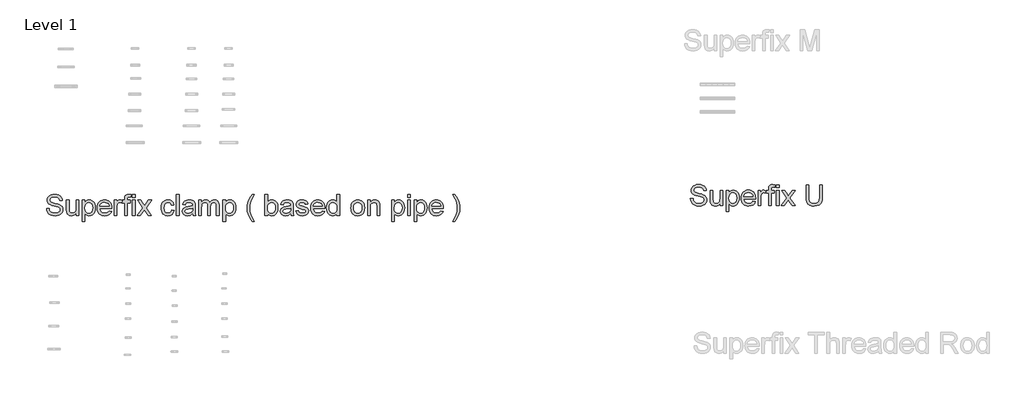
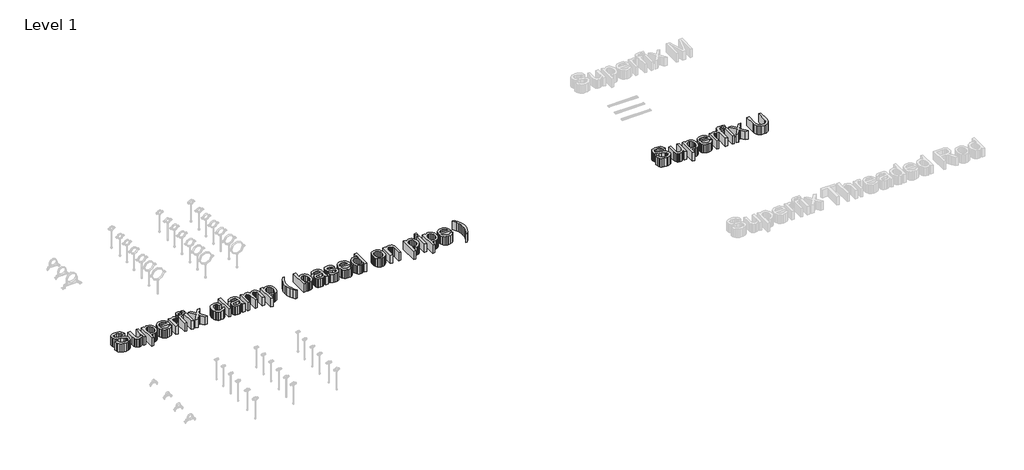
# One storey, part 25 of 32: 2 proxies.
"""IFC4 building model written with IfcOpenShell, lengths in millimetres."""

from ifc_helpers import new_model, si_unit, origin, origin_with_axes, place, context, project, spatial, polyline, outline, extrude, element, save

model = new_model("IFC4")

# Units and contexts
model_context = context("Model", 3, world=origin())
ifc_project = project(units=[si_unit("LENGTHUNIT", "METRE", prefix="MILLI")], contexts=[model_context])

# Site, building, storey
site = spatial("IfcSite", under=ifc_project)
building = spatial("IfcBuilding", under=site)
storey = spatial("IfcBuildingStorey", under=building, Name="Level 1", Elevation=0.0)

# Proxies
placement = place(None, origin())
element("IfcBuildingElementProxy", 1, Name="300mm Arial 2", ObjectType="300mm Arial 2", at=placement, inside=storey, context=model_context, shape_type="SweptSolid", body=[
    extrude(outline(polyline([(-49767.313903, 24946.1412722), (-49729.6427866, 24946.1412722), (-49725.3201732, 24925.2363779), (-49717.5026808, 24908.4333677), (-49705.3073927, 24895.0976454), (-49687.851392, 24884.5946144), (-49666.5142363, 24877.7796005), (-49642.675483, 24875.5079292), (-49621.6878152, 24877.2277775), (-49603.3121095, 24882.3873225), (-49588.4220857, 24890.5543028), (-49577.8914636, 24901.296457), (-49571.6282727, 24913.6297009), (-49569.5405423, 24926.5699501), (-49571.1040408, 24939.1791055), (-49575.7945363, 24950.0776096), (-49585.3226799, 24959.375827), (-49601.3991231, 24967.1841224), (-49656.2503286, 24981.5683084), (-49692.2567789, 24991.087255), (-49715.2953888, 25000.1463491), (-49734.0481735, 25012.8198839), (-49747.3379106, 25028.1789572), (-49755.2565706, 25045.8924752), (-49757.8961239, 25065.6293443), (-49754.6311712, 25087.6930669), (-49744.836313, 25108.2668675), (-49728.7690669, 25125.7044741), (-49706.6869501, 25138.3596147), (-49680.1810524, 25146.0575455), (-49650.8424633, 25148.6235224), (-49619.0574589, 25145.9379838), (-49591.2455801, 25137.8813681), (-49568.4001082, 25124.6192222), (-49551.5143246, 25106.3170929), (-49540.8273526, 25084.1154145), (-49536.5783156, 25059.1546211), (-49574.2494319, 25059.1546211), (-49581.1656134, 25081.6322111), (-49595.5865876, 25097.855807), (-49618.1193598, 25107.6782563), (-49649.3709353, 25110.9524061), (-49681.3582748, 25107.7150445), (-49703.3024358, 25098.0029598), (-49715.9943646, 25083.7107443), (-49720.2250076, 25066.7329902), (-49717.2267693, 25052.2568337), (-49708.2320545, 25040.6133686), (-49686.9684752, 25030.2023081), (-49646.7221849, 25019.5705185), (-49605.1883077, 25009.4721577), (-49580.0619674, 25000.6613839), (-49558.5868559, 24986.9945678), (-49543.6048617, 24970.1271783), (-49534.803285, 24950.2431565), (-49531.869426, 24927.5264433), (-49535.2447433, 24904.3038923), (-49545.3706953, 24882.4608989), (-49561.8334145, 24863.6621289), (-49584.219034, 24849.5722485), (-49611.138799, 24840.7706718), (-49641.203955, 24837.8368128), (-49678.1117162, 24841.000598), (-49708.4895719, 24850.4919535), (-49732.6870102, 24866.3476675), (-49751.0535188, 24888.6045282), (-49762.8441367, 24915.7174312), (-49767.313903, 24946.1412722)])), origin_with_axes(), (0.0, 0.0, 1.0), 150.0),
    extrude(outline(polyline([(-49338.804955, 24842.5457024), (-49338.804955, 24880.5847007), (-49352.4349829, 24861.8824998), (-49368.309091, 24848.5237848), (-49386.4272792, 24840.5085558), (-49406.7895477, 24837.8368128), (-49425.1376622, 24839.713011), (-49442.2165838, 24845.3416056), (-49456.5455875, 24853.8028914), (-49466.6439483, 24864.1771637), (-49477.8643491, 24891.9154661), (-49480.0716411, 24926.9378321), (-49480.0716411, 25063.8635107), (-49442.4005248, 25063.8635107), (-49442.4005248, 24944.6697442), (-49440.1196564, 24906.262864), (-49434.6290177, 24893.4513735), (-49425.2204356, 24883.7116976), (-49412.5193098, 24877.5588713), (-49397.1510394, 24875.5079292), (-49380.8998523, 24877.6048565), (-49365.6971288, 24883.8956386), (-49353.1615498, 24893.8008614), (-49344.9117961, 24906.7411105), (-49340.3316653, 24924.4638257), (-49338.804955, 24948.7164462), (-49338.804955, 25063.8635107), (-49301.1338387, 25063.8635107), (-49301.1338387, 24842.5457024), (-49338.804955, 24842.5457024)])), origin_with_axes(), (0.0, 0.0, 1.0), 150.0),
    extrude(outline(polyline([(-49249.3360537, 24757.7856907), (-49249.3360537, 25063.8635107), (-49211.6649374, 25063.8635107), (-49211.6649374, 25026.9281584), (-49199.3776788, 25045.1475142), (-49185.6188922, 25058.1613398), (-49169.5792372, 25065.9696351), (-49150.4493734, 25068.5724002), (-49124.9735453, 25064.9303685), (-49102.6982905, 25054.0042732), (-49084.5617081, 25036.456302), (-49071.5018973, 25012.9486426), (-49063.6108285, 24985.191946), (-49060.9804722, 24954.8968637), (-49063.9511193, 24922.679598), (-49072.8630607, 24893.8652407), (-49087.4311877, 24869.9161228), (-49107.3703918, 24852.2945753), (-49130.5929428, 24841.4512535), (-49155.0111102, 24837.8368128), (-49172.3291551, 24840.255637), (-49187.789396, 24847.5121093), (-49201.0239507, 24858.4657957), (-49211.6649374, 24871.976262), (-49211.6649374, 24757.7856907), (-49249.3360537, 24757.7856907)]), holes=[polyline([(-49211.6649374, 24951.438773), (-49207.5906443, 24917.6672058), (-49195.3677651, 24894.0491817), (-49177.3323502, 24880.1432423), (-49155.8204506, 24875.5079292), (-49133.959063, 24880.3087892), (-49115.4637957, 24894.7113693), (-49102.8546403, 24919.1939161), (-49098.6515885, 24954.2346761), (-49102.7534728, 24987.8223023), (-49115.0591255, 25011.7714202), (-49133.0669492, 25026.118818), (-49154.2753462, 25030.9012839), (-49175.5665167, 25025.8153153), (-49194.2641191, 25010.5574096), (-49207.3147328, 24985.6058133), (-49211.6649374, 24951.438773)])]), origin_with_axes(), (0.0, 0.0, 1.0), 150.0),
    extrude(outline(polyline([(-48863.64857, 24908.4701559), (-48826.7132177, 24903.7612664), (-48840.0213489, 24875.9309934), (-48861.257337, 24855.1272666), (-48889.9429356, 24842.1594263), (-48925.599898, 24837.8368128), (-48948.9742003, 24839.7015147), (-48969.8009197, 24845.2956203), (-48988.0800563, 24854.6191296), (-49003.8116102, 24867.6720427), (-49016.4621523, 24884.091076), (-49025.4982538, 24903.512946), (-49030.9199147, 24925.9376529), (-49032.727135, 24951.3651966), (-49030.9015206, 24977.6549636), (-49025.4246774, 25000.8269308), (-49016.2966054, 25020.8810981), (-49003.5173046, 25037.8174654), (-48987.8271375, 25051.2727494), (-48969.9664666, 25060.8836665), (-48949.935292, 25066.6502168), (-48927.7336136, 25068.5724002), (-48906.2470058, 25066.6548153), (-48886.8159386, 25060.9020606), (-48869.4404122, 25051.3141361), (-48854.1204263, 25037.8910418), (-48841.6147378, 25020.9914627), (-48832.6821031, 25000.9740836), (-48827.3225222, 24977.8389046), (-48825.5359953, 24951.5859258), (-48825.7567245, 24941.4323827), (-48995.0560187, 24941.4323827), (-48988.5353103, 24913.2342278), (-48973.3877692, 24892.5040773), (-48951.5263816, 24879.7569662), (-48924.864134, 24875.5079292), (-48904.8145653, 24877.4760978), (-48887.9287817, 24883.3806039), (-48874.2067833, 24893.5893292), (-48863.64857, 24908.4701559)]), holes=[polyline([(-48995.0560187, 24979.103499), (-48863.2071116, 24979.103499), (-48868.3022772, 24999.0059149), (-48878.2902734, 25013.2429481), (-48900.2528285, 25026.4867), (-48927.8807664, 25030.9012839), (-48953.2738211, 25027.3788138), (-48974.270686, 25016.8114035), (-48988.8664041, 25000.3394872), (-48995.0560187, 24979.103499)])]), origin_with_axes(), (0.0, 0.0, 1.0), 150.0),
    extrude(outline(polyline([(-48787.864879, 24842.5457024), (-48787.864879, 25063.8635107), (-48754.9026522, 25063.8635107), (-48754.9026522, 25031.1220131), (-48742.7257582, 25050.1047241), (-48731.5053573, 25061.2883367), (-48720.2481683, 25066.7513843), (-48707.9609096, 25068.5724002), (-48689.1989279, 25065.6661325), (-48670.1426405, 25056.9473292), (-48682.7242048, 25023.175762), (-48695.9679566, 25028.9699034), (-48709.2117084, 25030.9012839), (-48720.4597004, 25029.0434798), (-48730.5120759, 25023.4700676), (-48738.633071, 25014.6041115), (-48744.0869216, 25002.8686759), (-48748.6670524, 24981.8258258), (-48750.1937627, 24958.8699893), (-48750.1937627, 24842.5457024), (-48787.864879, 24842.5457024)])), origin_with_axes(), (0.0, 0.0, 1.0), 150.0),
    extrude(outline(polyline([(-48637.1804138, 24842.5457024), (-48637.1804138, 25026.1923944), (-48670.1426405, 25026.1923944), (-48670.1426405, 25063.8635107), (-48637.1804138, 25063.8635107), (-48637.1804138, 25086.1571596), (-48633.2072882, 25117.574282), (-48625.6289191, 25130.1006639), (-48613.9302717, 25140.0150837), (-48597.5595229, 25146.4714127), (-48575.9648498, 25148.6235224), (-48541.6046714, 25144.503244), (-48547.1229014, 25109.1865725), (-48568.8279391, 25110.9524061), (-48583.1477457, 25109.3889076), (-48592.5563278, 25104.6984122), (-48597.771055, 25095.7404856), (-48599.5092975, 25081.3746937), (-48599.5092975, 25063.8635107), (-48557.1292916, 25063.8635107), (-48557.1292916, 25026.1923944), (-48599.5092975, 25026.1923944), (-48599.5092975, 24842.5457024), (-48637.1804138, 24842.5457024)])), origin_with_axes(), (0.0, 0.0, 1.0), 150.0),
    extrude(outline(polyline([(-48524.1670649, 24842.5457024), (-48524.1670649, 25063.8635107), (-48486.4959485, 25063.8635107), (-48486.4959485, 24842.5457024), (-48524.1670649, 24842.5457024)])), origin_with_axes(), (0.0, 0.0, 1.0), 150.0),
    extrude(outline(polyline([(-48524.1670649, 25106.2435165), (-48524.1670649, 25143.9146328), (-48486.4959485, 25143.9146328), (-48486.4959485, 25106.2435165), (-48524.1670649, 25106.2435165)])), origin_with_axes(), (0.0, 0.0, 1.0), 150.0),
    extrude(outline(polyline([(-48453.5337218, 24842.5457024), (-48373.0411412, 24953.7932177), (-48448.8248322, 25063.8635107), (-48403.5017704, 25063.8635107), (-48366.9343001, 25010.8885034), (-48349.8645755, 24985.8725277), (-48335.0757193, 25006.3267666), (-48293.4314775, 25063.8635107), (-48248.1084157, 25063.8635107), (-48327.7180794, 24953.7932177), (-48251.0514716, 24842.5457024), (-48296.3745334, 24842.5457024), (-48342.5069356, 24909.4266491), (-48350.9682215, 24921.6403314), (-48408.21066, 24842.5457024), (-48453.5337218, 24842.5457024)])), origin_with_axes(), (0.0, 0.0, 1.0), 150.0),
    extrude(outline(polyline([(-47959.1003203, 24922.5968245), (-47921.429204, 24917.887935), (-47931.9322349, 24884.3830823), (-47951.669104, 24859.063604), (-47978.782007, 24843.1435106), (-48011.41314, 24837.8368128), (-48032.5410628, 24839.6877191), (-48051.4846863, 24845.240438), (-48068.2440104, 24854.4949694), (-48082.8190352, 24867.4513135), (-48094.616551, 24883.8657482), (-48103.0433479, 24903.4945519), (-48108.0994261, 24926.3377246), (-48109.7847855, 24952.3952661), (-48106.9061089, 24985.918513), (-48098.270079, 25014.9719935), (-48083.7387402, 25038.4336678), (-48063.1741367, 25055.1814956), (-48038.5720283, 25065.2246741), (-48011.9281748, 25068.5724002), (-47980.0971851, 25063.9738753), (-47954.6489481, 25050.1783005), (-47936.3928041, 25027.9214398), (-47926.1380935, 24997.9390572), (-47963.8092098, 24993.2301676), (-47970.6426179, 25009.6652957), (-47981.2836046, 25021.4467166), (-47995.1435587, 25028.5376421), (-48011.6338692, 25030.9012839), (-48035.9784602, 25026.2475767), (-48055.301462, 25012.286455), (-48067.9106174, 24988.2637607), (-48072.1136692, 24953.4253357), (-48068.0025879, 24918.1178612), (-48055.669344, 24894.0123935), (-48036.6958301, 24880.1340452), (-48012.6639388, 24875.5079292), (-47993.156996, 24878.3958028), (-47977.1633262, 24887.0594238), (-47965.5290581, 24901.7195213), (-47959.1003203, 24922.5968245)])), origin_with_axes(), (0.0, 0.0, 1.0), 150.0),
    extrude(outline(polyline([(-47888.4669772, 24842.5457024), (-47888.4669772, 25143.9146328), (-47850.7958609, 25143.9146328), (-47850.7958609, 24842.5457024), (-47888.4669772, 24842.5457024)])), origin_with_axes(), (0.0, 0.0, 1.0), 150.0),
    extrude(outline(polyline([(-47653.0225003, 24870.7990396), (-47671.0211269, 24855.3663899), (-47689.5531824, 24845.2680292), (-47709.0417311, 24839.6946169), (-47729.9098373, 24837.8368128), (-47761.391339, 24842.3065791), (-47784.6138899, 24855.7158778), (-47798.9336966, 24876.0781462), (-47803.7069655, 24901.4068216), (-47801.9043437, 24917.0234123), (-47796.4964784, 24931.2052632), (-47788.1547542, 24943.3453691), (-47777.5505556, 24952.8367245), (-47751.1734166, 24965.1975596), (-47718.5790718, 24970.8629423), (-47680.0618269, 24976.8226306), (-47653.2432295, 24983.8123885), (-47653.0225003, 24992.200098), (-47655.6160683, 25009.0123052), (-47663.3967725, 25020.0119769), (-47680.7975909, 25028.1789572), (-47705.0410144, 25030.9012839), (-47727.4818161, 25029.0894651), (-47743.1535891, 25023.6540086), (-47753.8405611, 25013.6016331), (-47761.3269597, 24997.9390572), (-47798.998076, 25002.6479467), (-47792.4589735, 25023.2493384), (-47782.7009036, 25039.4361462), (-47768.8133583, 25051.8153753), (-47749.8858296, 25060.9940311), (-47726.7368551, 25066.6778079), (-47700.1849721, 25068.5724002), (-47674.7183409, 25066.8985371), (-47654.5308165, 25061.8769479), (-47639.3096989, 25054.32617), (-47628.7422886, 25045.0647407), (-47621.7341366, 25033.6144136), (-47617.1907939, 25019.4969421), (-47615.351384, 24986.5347153), (-47615.351384, 24939.6665491), (-47613.4383976, 24874.2203422), (-47605.9336049, 24842.5457024), (-47643.6047212, 24842.5457024), (-47653.0225003, 24870.7990396)]), holes=[polyline([(-47653.0225003, 24946.1412722), (-47713.7966059, 24934.5897776), (-47746.2070097, 24928.4829365), (-47760.8855013, 24918.5501226), (-47766.0358492, 24904.055572), (-47763.230749, 24892.8535652), (-47754.8154483, 24883.6749094), (-47740.9738883, 24877.5496742), (-47721.8900098, 24875.5079292), (-47701.6565, 24877.7612064), (-47683.7774351, 24884.521038), (-47669.2828845, 24894.4814431), (-47659.2029178, 24906.3364404), (-47654.7331516, 24918.5501226), (-47653.2432295, 24935.4726944), (-47653.0225003, 24946.1412722)])]), origin_with_axes(), (0.0, 0.0, 1.0), 150.0),
    extrude(outline(polyline([(-47563.553599, 24842.5457024), (-47563.553599, 25063.8635107), (-47525.8824827, 25063.8635107), (-47525.8824827, 25027.4431932), (-47514.5517173, 25044.1726269), (-47499.9835903, 25057.278423), (-47482.6747424, 25065.7489059), (-47463.1218144, 25068.5724002), (-47442.1709347, 25065.6937236), (-47425.3771217, 25057.0576938), (-47412.8323456, 25043.2345278), (-47404.6285771, 25024.7944428), (-47390.8973817, 25043.9472992), (-47375.2348057, 25057.6279109), (-47357.6408493, 25065.8362779), (-47338.1155124, 25068.5724002), (-47309.7977958, 25064.0198605), (-47288.8561132, 25050.3622415), (-47275.9158641, 25027.231661), (-47271.6024477, 24994.2602372), (-47271.6024477, 24842.5457024), (-47309.273564, 24842.5457024), (-47309.273564, 24978.0734294), (-47312.7684429, 25009.52734), (-47317.6796676, 25018.200158), (-47325.4235836, 25025.015172), (-47335.3839886, 25029.4297559), (-47346.9446803, 25030.9012839), (-47367.352934, 25027.1304935), (-47383.9903972, 25015.8181221), (-47395.0544482, 24996.1916177), (-47398.7424652, 24967.4784279), (-47398.7424652, 24842.5457024), (-47436.4135815, 24842.5457024), (-47436.4135815, 24982.2672842), (-47438.5932823, 25003.5676517), (-47445.1323848, 25018.7611781), (-47456.6378942, 25027.8662575), (-47473.7168158, 25030.9012839), (-47488.2297605, 25028.8779329), (-47501.6022711, 25022.80788), (-47512.6387309, 25012.838278), (-47520.1435236, 24999.1162795), (-47524.447743, 24980.0783863), (-47525.8824827, 24954.1610997), (-47525.8824827, 24842.5457024), (-47563.553599, 24842.5457024)])), origin_with_axes(), (0.0, 0.0, 1.0), 150.0),
    extrude(outline(polyline([(-47215.0957732, 24757.7856907), (-47215.0957732, 25063.8635107), (-47177.4246569, 25063.8635107), (-47177.4246569, 25026.9281584), (-47165.1373983, 25045.1475142), (-47151.3786116, 25058.1613398), (-47135.3389567, 25065.9696351), (-47116.2090929, 25068.5724002), (-47090.7332647, 25064.9303685), (-47068.4580099, 25054.0042732), (-47050.3214276, 25036.456302), (-47037.2616167, 25012.9486426), (-47029.3705479, 24985.191946), (-47026.7401917, 24954.8968637), (-47029.7108388, 24922.679598), (-47038.6227801, 24893.8652407), (-47053.1909071, 24869.9161228), (-47073.1301113, 24852.2945753), (-47096.3526622, 24841.4512535), (-47120.7708297, 24837.8368128), (-47138.0888746, 24840.255637), (-47153.5491154, 24847.5121093), (-47166.7836702, 24858.4657957), (-47177.4246569, 24871.976262), (-47177.4246569, 24757.7856907), (-47215.0957732, 24757.7856907)]), holes=[polyline([(-47177.4246569, 24951.438773), (-47173.3503638, 24917.6672058), (-47161.1274845, 24894.0491817), (-47143.0920697, 24880.1432423), (-47121.58017, 24875.5079292), (-47099.7187825, 24880.3087892), (-47081.2235152, 24894.7113693), (-47068.6143598, 24919.1939161), (-47064.411308, 24954.2346761), (-47068.5131922, 24987.8223023), (-47080.818845, 25011.7714202), (-47098.8266686, 25026.118818), (-47120.0350657, 25030.9012839), (-47141.3262361, 25025.8153153), (-47160.0238385, 25010.5574096), (-47173.0744523, 24985.6058133), (-47177.4246569, 24951.438773)])]), origin_with_axes(), (0.0, 0.0, 1.0), 150.0),
    extrude(outline(polyline([(-46791.2957148, 24757.7856907), (-46820.4871511, 24798.7493509), (-46844.7857569, 24846.1509459), (-46861.1748998, 24897.6912135), (-46866.6379474, 24951.070891), (-46862.5544572, 24997.8838749), (-46850.3039868, 25042.6735078), (-46825.9869869, 25093.4044349), (-46791.2957148, 25143.9146328), (-46763.0423775, 25143.9146328), (-46798.2854727, 25084.2441732), (-46819.4754756, 25026.4131236), (-46826.5939922, 24988.7236132), (-46828.9668311, 24950.8501618), (-46824.8465527, 24902.5564529), (-46812.4857177, 24854.281138), (-46791.884326, 24806.0242173), (-46763.0423775, 24757.7856907), (-46791.2957148, 24757.7856907)])), origin_with_axes(), (0.0, 0.0, 1.0), 150.0),
    extrude(outline(polyline([(-46569.9779065, 24842.5457024), (-46607.6490228, 24842.5457024), (-46607.6490228, 25143.9146328), (-46569.9779065, 25143.9146328), (-46569.9779065, 25032.1520827), (-46557.5894803, 25048.0859716), (-46543.6007674, 25059.4673208), (-46528.0117679, 25066.2961304), (-46510.8224816, 25068.5724002), (-46491.4167064, 25066.5214581), (-46473.0777889, 25060.3686317), (-46456.854193, 25050.5001972), (-46443.7943821, 25037.3024306), (-46433.5580656, 25020.9040907), (-46425.8049526, 25001.4339361), (-46420.9213191, 24979.7013072), (-46419.2934412, 24956.5155445), (-46420.9788006, 24929.7613264), (-46426.0348788, 24906.2260758), (-46434.4616758, 24885.9097926), (-46446.2591915, 24868.8124768), (-46460.420349, 24855.2606238), (-46475.9380715, 24845.5807288), (-46492.8123587, 24839.7727918), (-46511.0432108, 24837.8368128), (-46528.7981156, 24840.3338119), (-46544.5388665, 24847.824809), (-46558.2654635, 24860.3098042), (-46569.9779065, 24877.7887975), (-46569.9779065, 24842.5457024)]), holes=[polyline([(-46569.9779065, 24954.7497109), (-46567.4027325, 24923.3325885), (-46559.6772106, 24902.0690092), (-46550.5491386, 24890.4485367), (-46539.9403416, 24882.1481992), (-46527.8508195, 24877.1679967), (-46514.2805724, 24875.5079292), (-46492.5387465, 24880.4007597), (-46473.9607057, 24895.0792513), (-46461.2135946, 24919.4514335), (-46456.9645576, 24953.4253357), (-46461.0388507, 24987.8958787), (-46473.2617299, 25011.9921494), (-46491.2603566, 25026.1740003), (-46512.6618916, 25030.9012839), (-46534.4037175, 25026.0084534), (-46552.9817583, 25011.3299618), (-46565.7288694, 24987.399238), (-46569.9779065, 24954.7497109)])]), origin_with_axes(), (0.0, 0.0, 1.0), 150.0),
    extrude(outline(polyline([(-46235.6467493, 24870.7990396), (-46253.6453759, 24855.3663899), (-46272.1774314, 24845.2680292), (-46291.6659801, 24839.6946169), (-46312.5340862, 24837.8368128), (-46344.015588, 24842.3065791), (-46367.2381389, 24855.7158778), (-46381.5579456, 24876.0781462), (-46386.3312145, 24901.4068216), (-46384.5285927, 24917.0234123), (-46379.1207274, 24931.2052632), (-46370.7790031, 24943.3453691), (-46360.1748046, 24952.8367245), (-46333.7976656, 24965.1975596), (-46301.2033208, 24970.8629423), (-46262.6860759, 24976.8226306), (-46235.8674785, 24983.8123885), (-46235.6467493, 24992.200098), (-46238.2403173, 25009.0123052), (-46246.0210215, 25020.0119769), (-46263.4218399, 25028.1789572), (-46287.6652634, 25030.9012839), (-46310.1060651, 25029.0894651), (-46325.7778381, 25023.6540086), (-46336.46481, 25013.6016331), (-46343.9512086, 24997.9390572), (-46381.6223249, 25002.6479467), (-46375.0832225, 25023.2493384), (-46365.3251526, 25039.4361462), (-46351.4376072, 25051.8153753), (-46332.5100786, 25060.9940311), (-46309.361104, 25066.6778079), (-46282.809221, 25068.5724002), (-46257.3425899, 25066.8985371), (-46237.1550654, 25061.8769479), (-46221.9339479, 25054.32617), (-46211.3665376, 25045.0647407), (-46204.3583856, 25033.6144136), (-46199.8150429, 25019.4969421), (-46197.9756329, 24986.5347153), (-46197.9756329, 24939.6665491), (-46196.0626466, 24874.2203422), (-46188.5578539, 24842.5457024), (-46226.2289702, 24842.5457024), (-46235.6467493, 24870.7990396)]), holes=[polyline([(-46235.6467493, 24946.1412722), (-46296.4208549, 24934.5897776), (-46328.8312586, 24928.4829365), (-46343.5097502, 24918.5501226), (-46348.6600982, 24904.055572), (-46345.854998, 24892.8535652), (-46337.4396973, 24883.6749094), (-46323.5981373, 24877.5496742), (-46304.5142588, 24875.5079292), (-46284.280749, 24877.7612064), (-46266.4016841, 24884.521038), (-46251.9071334, 24894.4814431), (-46241.8271668, 24906.3364404), (-46237.3574005, 24918.5501226), (-46235.8674785, 24935.4726944), (-46235.6467493, 24946.1412722)])]), origin_with_axes(), (0.0, 0.0, 1.0), 150.0),
    extrude(outline(polyline([(-46160.3045166, 24908.4701559), (-46122.6334003, 24913.1790455), (-46116.6921061, 24897.0658141), (-46105.1957938, 24885.2200138), (-46088.0708869, 24877.9359503), (-46065.2438091, 24875.5079292), (-46042.6926428, 24877.7336152), (-46026.8369288, 24884.4106734), (-46017.4559379, 24894.0859699), (-46014.328941, 24905.3063708), (-46017.474332, 24914.9080908), (-46026.9105052, 24922.2289425), (-46065.6852675, 24932.9710968), (-46122.4126711, 24951.4019848), (-46136.769266, 24960.663414), (-46147.1711294, 24972.9230815), (-46153.4895027, 24987.399238), (-46155.5956271, 25003.3101343), (-46153.9033699, 25017.9058524), (-46148.8265984, 25031.3795305), (-46140.825165, 25043.1977396), (-46130.3589222, 25052.8270508), (-46106.4098044, 25063.9738753), (-46073.9994006, 25068.5724002), (-46049.4800656, 25066.7237932), (-46028.161304, 25061.1779721), (-46011.018003, 25052.4775629), (-45999.02505, 25041.1651916), (-45991.0787989, 25026.4039265), (-45986.0756037, 25007.3568362), (-46023.74672, 25002.6479467), (-46028.5015948, 25014.502944), (-46037.9101768, 25023.4332794), (-46052.0644366, 25029.0342828), (-46071.0563446, 25030.9012839), (-46092.6878059, 25029.1170562), (-46107.1087801, 25023.7643732), (-46115.2205781, 25016.0388513), (-46117.9245108, 25007.136107), (-46113.4363505, 24996.1732236), (-46099.3832582, 24987.8590905), (-46066.9360663, 24979.839263), (-46011.6434024, 24962.1073508), (-45997.0384872, 24953.6276708), (-45985.9652391, 24942.0209939), (-45978.9846783, 24927.2505318), (-45976.6578247, 24909.2794963), (-45979.3893485, 24890.7014556), (-45987.5839199, 24873.2270608), (-46000.9288393, 24858.2266724), (-46019.1114069, 24847.0706509), (-46041.073962, 24840.1452724), (-46065.7588439, 24837.8368128), (-46103.7426599, 24842.288185), (-46131.4625682, 24855.6423014), (-46149.9670326, 24877.7520093), (-46160.3045166, 24908.4701559)])), origin_with_axes(), (0.0, 0.0, 1.0), 150.0),
    extrude(outline(polyline([(-45779.3259224, 24908.4701559), (-45742.3905701, 24903.7612664), (-45755.6987013, 24875.9309934), (-45776.9346895, 24855.1272666), (-45805.620288, 24842.1594263), (-45841.2772504, 24837.8368128), (-45864.6515527, 24839.7015147), (-45885.4782721, 24845.2956203), (-45903.7574088, 24854.6191296), (-45919.4889626, 24867.6720427), (-45932.1395047, 24884.091076), (-45941.1756062, 24903.512946), (-45946.5972671, 24925.9376529), (-45948.4044874, 24951.3651966), (-45946.578873, 24977.6549636), (-45941.1020298, 25000.8269308), (-45931.9739578, 25020.8810981), (-45919.194657, 25037.8174654), (-45903.5044899, 25051.2727494), (-45885.643819, 25060.8836665), (-45865.6126444, 25066.6502168), (-45843.410966, 25068.5724002), (-45821.9243582, 25066.6548153), (-45802.4932911, 25060.9020606), (-45785.1177646, 25051.3141361), (-45769.7977788, 25037.8910418), (-45757.2920902, 25020.9914627), (-45748.3594555, 25000.9740836), (-45742.9998747, 24977.8389046), (-45741.2133477, 24951.5859258), (-45741.4340769, 24941.4323827), (-45910.7333711, 24941.4323827), (-45904.2126628, 24913.2342278), (-45889.0651216, 24892.5040773), (-45867.203734, 24879.7569662), (-45840.5414864, 24875.5079292), (-45820.4919177, 24877.4760978), (-45803.6061341, 24883.3806039), (-45789.8841357, 24893.5893292), (-45779.3259224, 24908.4701559)]), holes=[polyline([(-45910.7333711, 24979.103499), (-45778.884464, 24979.103499), (-45783.9796297, 24999.0059149), (-45793.9676258, 25013.2429481), (-45815.930181, 25026.4867), (-45843.5581188, 25030.9012839), (-45868.9511735, 25027.3788138), (-45889.9480384, 25016.8114035), (-45904.5437565, 25000.3394872), (-45910.7333711, 24979.103499)])]), origin_with_axes(), (0.0, 0.0, 1.0), 150.0),
    extrude(outline(polyline([(-45566.9844348, 24842.5457024), (-45566.9844348, 24878.0831031), (-45578.2554194, 24860.4753511), (-45591.90844, 24847.8983854), (-45607.9434965, 24840.352206), (-45626.3605888, 24837.8368128), (-45650.7143769, 24841.4788446), (-45673.0080258, 24852.4049399), (-45691.8803722, 24869.8517435), (-45705.9702526, 24893.0559003), (-45714.7442382, 24921.0793113), (-45717.6689, 24952.9838773), (-45714.9741644, 24984.4929702), (-45706.8899576, 25012.9486426), (-45693.4254766, 25036.7322135), (-45674.5899184, 25054.2250024), (-45651.8088259, 25064.9855508), (-45626.5077416, 25068.5724002), (-45608.0768537, 25066.0064233), (-45591.7796813, 25058.3084926), (-45577.9657124, 25046.5086776), (-45566.9844348, 25031.6370479), (-45566.9844348, 25143.9146328), (-45529.3133185, 25143.9146328), (-45529.3133185, 24842.5457024), (-45566.9844348, 24842.5457024)]), holes=[polyline([(-45679.9977837, 24953.1310301), (-45675.7487467, 24919.0559603), (-45663.0016356, 24894.8217339), (-45644.4787771, 24880.3363803), (-45622.9024981, 24875.5079292), (-45601.3354161, 24880.1156511), (-45583.2816072, 24893.9388171), (-45571.0587279, 24917.2349445), (-45566.9844348, 24950.2615506), (-45571.1323043, 24986.3691684), (-45583.5759128, 25011.4035382), (-45602.0895742, 25026.0268475), (-45624.4476025, 25030.9012839), (-45646.2446107, 25026.2199855), (-45664.1052815, 25012.1760904), (-45676.0246582, 24988.0522285), (-45679.9977837, 24953.1310301)])]), origin_with_axes(), (0.0, 0.0, 1.0), 150.0),
    extrude(outline(polyline([(-45364.5021847, 24953.2046065), (-45362.4650381, 24981.8672125), (-45356.3535985, 25006.5658899), (-45346.1678657, 25027.3006389), (-45331.9078399, 25044.0714593), (-45317.551245, 25054.790621), (-45301.7047281, 25062.447165), (-45284.3682891, 25067.0410914), (-45265.541928, 25068.5724002), (-45244.7588945, 25066.7076984), (-45225.9670223, 25061.1135928), (-45209.1663115, 25051.7900835), (-45194.3567619, 25038.7371704), (-45182.2695391, 25022.396312), (-45173.6358085, 25003.2089667), (-45168.4555702, 24981.1751345), (-45166.7288241, 24956.2948153), (-45169.7822446, 24918.2374229), (-45178.9425063, 24889.2667158), (-45193.9428947, 24867.5708751), (-45214.5166952, 24851.3380821), (-45238.9532568, 24841.2121302), (-45265.541928, 24837.8368128), (-45286.6284641, 24839.6946169), (-45305.5950802, 24845.2680292), (-45322.4417763, 24854.5570495), (-45337.1685524, 24867.5616781), (-45349.1270165, 24884.0611855), (-45357.6687766, 24903.8348428), (-45362.7938327, 24926.8826498), (-45364.5021847, 24953.2046065)]), holes=[polyline([(-45326.8310684, 24953.2781829), (-45322.4716667, 24919.184719), (-45309.3934618, 24894.8953103), (-45289.7117751, 24880.3547744), (-45265.541928, 24875.5079292), (-45241.4824455, 24880.3823656), (-45221.8375469, 24895.0056749), (-45208.759342, 24919.6169804), (-45204.3999404, 24954.4554053), (-45208.7869332, 24987.5555878), (-45221.9479115, 25011.5139028), (-45241.6204012, 25026.0544386), (-45265.541928, 25030.9012839), (-45289.7117751, 25026.0728327), (-45309.3934618, 25011.5874792), (-45322.4716667, 24987.3532527), (-45326.8310684, 24953.2781829)])]), origin_with_axes(), (0.0, 0.0, 1.0), 150.0),
    extrude(outline(polyline([(-45124.3488182, 24842.5457024), (-45124.3488182, 25063.8635107), (-45086.6777019, 25063.8635107), (-45086.6777019, 25032.9614231), (-45073.5902999, 25048.5412256), (-45057.8725417, 25059.6696559), (-45039.5244272, 25066.3467142), (-45018.5459564, 25068.5724002), (-44999.9771127, 25066.7789755), (-44982.9717675, 25061.3987013), (-44968.7899166, 25053.1029623), (-44958.6915558, 25042.5631432), (-44947.3975785, 25014.8616289), (-44945.4110158, 24978.4413114), (-44945.4110158, 24842.5457024), (-44983.0821321, 24842.5457024), (-44983.0821321, 24973.3645399), (-44987.4231396, 25006.6946486), (-44993.4288132, 25016.6182655), (-45002.7638188, 25024.3161962), (-45014.7291807, 25029.255012), (-45028.6259231, 25030.9012839), (-45050.6896457, 25027.2040699), (-45069.4976127, 25016.1124277), (-45077.0139018, 25007.0579321), (-45082.3826796, 24994.6833015), (-45086.6777019, 24959.9736352), (-45086.6777019, 24842.5457024), (-45124.3488182, 24842.5457024)])), origin_with_axes(), (0.0, 0.0, 1.0), 150.0),
    extrude(outline(polyline([(-44775.8909924, 24757.7856907), (-44775.8909924, 25063.8635107), (-44738.2198761, 25063.8635107), (-44738.2198761, 25026.9281584), (-44725.9326174, 25045.1475142), (-44712.1738308, 25058.1613398), (-44696.1341758, 25065.9696351), (-44677.0043121, 25068.5724002), (-44651.5284839, 25064.9303685), (-44629.2532291, 25054.0042732), (-44611.1166468, 25036.456302), (-44598.0568359, 25012.9486426), (-44590.1657671, 24985.191946), (-44587.5354109, 24954.8968637), (-44590.506058, 24922.679598), (-44599.4179993, 24893.8652407), (-44613.9861263, 24869.9161228), (-44633.9253305, 24852.2945753), (-44657.1478814, 24841.4512535), (-44681.5660488, 24837.8368128), (-44698.8840938, 24840.255637), (-44714.3443346, 24847.5121093), (-44727.5788894, 24858.4657957), (-44738.2198761, 24871.976262), (-44738.2198761, 24757.7856907), (-44775.8909924, 24757.7856907)]), holes=[polyline([(-44738.2198761, 24951.438773), (-44734.145583, 24917.6672058), (-44721.9227037, 24894.0491817), (-44703.8872889, 24880.1432423), (-44682.3753892, 24875.5079292), (-44660.5140017, 24880.3087892), (-44642.0187343, 24894.7113693), (-44629.409579, 24919.1939161), (-44625.2065272, 24954.2346761), (-44629.3084114, 24987.8223023), (-44641.6140642, 25011.7714202), (-44659.6218878, 25026.118818), (-44680.8302848, 25030.9012839), (-44702.1214553, 25025.8153153), (-44720.8190577, 25010.5574096), (-44733.8696715, 24985.6058133), (-44738.2198761, 24951.438773)])]), origin_with_axes(), (0.0, 0.0, 1.0), 150.0),
    extrude(outline(polyline([(-44545.155405, 24842.5457024), (-44545.155405, 25063.8635107), (-44507.4842887, 25063.8635107), (-44507.4842887, 24842.5457024), (-44545.155405, 24842.5457024)])), origin_with_axes(), (0.0, 0.0, 1.0), 150.0),
    extrude(outline(polyline([(-44545.155405, 25106.2435165), (-44545.155405, 25143.9146328), (-44507.4842887, 25143.9146328), (-44507.4842887, 25106.2435165), (-44545.155405, 25106.2435165)])), origin_with_axes(), (0.0, 0.0, 1.0), 150.0),
    extrude(outline(polyline([(-44450.9776143, 24757.7856907), (-44450.9776143, 25063.8635107), (-44413.3064979, 25063.8635107), (-44413.3064979, 25026.9281584), (-44401.0192393, 25045.1475142), (-44387.2604527, 25058.1613398), (-44371.2207977, 25065.9696351), (-44352.090934, 25068.5724002), (-44326.6151058, 25064.9303685), (-44304.339851, 25054.0042732), (-44286.2032686, 25036.456302), (-44273.1434578, 25012.9486426), (-44265.252389, 24985.191946), (-44262.6220327, 24954.8968637), (-44265.5926798, 24922.679598), (-44274.5046212, 24893.8652407), (-44289.0727482, 24869.9161228), (-44309.0119523, 24852.2945753), (-44332.2345033, 24841.4512535), (-44356.6526707, 24837.8368128), (-44373.9707156, 24840.255637), (-44389.4309565, 24847.5121093), (-44402.6655112, 24858.4657957), (-44413.3064979, 24871.976262), (-44413.3064979, 24757.7856907), (-44450.9776143, 24757.7856907)]), holes=[polyline([(-44413.3064979, 24951.438773), (-44409.2322049, 24917.6672058), (-44397.0093256, 24894.0491817), (-44378.9739107, 24880.1432423), (-44357.4620111, 24875.5079292), (-44335.6006235, 24880.3087892), (-44317.1053562, 24894.7113693), (-44304.4962008, 24919.1939161), (-44300.293149, 24954.2346761), (-44304.3950333, 24987.8223023), (-44316.700686, 25011.7714202), (-44334.7085097, 25026.118818), (-44355.9169067, 25030.9012839), (-44377.2080772, 25025.8153153), (-44395.9056796, 25010.5574096), (-44408.9562934, 24985.6058133), (-44413.3064979, 24951.438773)])]), origin_with_axes(), (0.0, 0.0, 1.0), 150.0),
    extrude(outline(polyline([(-44065.2901305, 24908.4701559), (-44028.3547782, 24903.7612664), (-44041.6629094, 24875.9309934), (-44062.8988975, 24855.1272666), (-44091.5844961, 24842.1594263), (-44127.2414585, 24837.8368128), (-44150.6157608, 24839.7015147), (-44171.4424802, 24845.2956203), (-44189.7216169, 24854.6191296), (-44205.4531707, 24867.6720427), (-44218.1037128, 24884.091076), (-44227.1398143, 24903.512946), (-44232.5614752, 24925.9376529), (-44234.3686955, 24951.3651966), (-44232.5430811, 24977.6549636), (-44227.0662379, 25000.8269308), (-44217.9381659, 25020.8810981), (-44205.1588651, 25037.8174654), (-44189.468698, 25051.2727494), (-44171.6080271, 25060.8836665), (-44151.5768525, 25066.6502168), (-44129.3751741, 25068.5724002), (-44107.8885663, 25066.6548153), (-44088.4574992, 25060.9020606), (-44071.0819727, 25051.3141361), (-44055.7619868, 25037.8910418), (-44043.2562983, 25020.9914627), (-44034.3236636, 25000.9740836), (-44028.9640827, 24977.8389046), (-44027.1775558, 24951.5859258), (-44027.398285, 24941.4323827), (-44196.6975792, 24941.4323827), (-44190.1768708, 24913.2342278), (-44175.0293297, 24892.5040773), (-44153.1679421, 24879.7569662), (-44126.5056945, 24875.5079292), (-44106.4561258, 24877.4760978), (-44089.5703422, 24883.3806039), (-44075.8483438, 24893.5893292), (-44065.2901305, 24908.4701559)]), holes=[polyline([(-44196.6975792, 24979.103499), (-44064.8486721, 24979.103499), (-44069.9438377, 24999.0059149), (-44079.9318339, 25013.2429481), (-44101.894389, 25026.4867), (-44129.5223269, 25030.9012839), (-44154.9153816, 25027.3788138), (-44175.9122465, 25016.8114035), (-44190.5079646, 25000.3394872), (-44196.6975792, 24979.103499)])]), origin_with_axes(), (0.0, 0.0, 1.0), 150.0),
    extrude(outline(polyline([(-43862.366422, 24757.7856907), (-43890.6197592, 24757.7856907), (-43861.7778108, 24806.0242173), (-43841.176419, 24854.281138), (-43828.815584, 24902.5564529), (-43824.6953057, 24950.8501618), (-43827.0681445, 24988.4477017), (-43834.1866611, 25025.750936), (-43843.1813759, 25055.3102543), (-43855.1559349, 25083.655562), (-43890.6197592, 25143.9146328), (-43862.366422, 25143.9146328), (-43827.6751498, 25093.4044349), (-43803.3581499, 25042.6735078), (-43791.1076795, 24997.8838749), (-43787.0241894, 24951.070891), (-43792.5148281, 24897.6912135), (-43808.9867445, 24846.1509459), (-43833.3129414, 24798.7493509), (-43862.366422, 24757.7856907)])), origin_with_axes(), (0.0, 0.0, 1.0), 150.0),
])
element("IfcBuildingElementProxy", 2, Name="300mm Arial 2", ObjectType="300mm Arial 2", at=placement, inside=storey, context=model_context, shape_type="SweptSolid", body=[
    extrude(outline(polyline([(-40452.5158412, 25088.0383239), (-40414.8447249, 25088.0383239), (-40410.5221115, 25067.1334296), (-40402.7046191, 25050.3304194), (-40390.509331, 25036.9946971), (-40373.0533303, 25026.4916662), (-40351.7161746, 25019.6766522), (-40327.8774213, 25017.4049809), (-40306.8897535, 25019.1248292), (-40288.5140478, 25024.2843742), (-40273.624024, 25032.4513545), (-40263.0934019, 25043.1935087), (-40256.830211, 25055.5267526), (-40254.7424806, 25068.4670018), (-40256.3059791, 25081.0761572), (-40260.9964746, 25091.9746613), (-40270.5246182, 25101.2728787), (-40286.6010614, 25109.0811741), (-40341.4522669, 25123.4653601), (-40377.4587172, 25132.9843067), (-40400.4973271, 25142.0434008), (-40419.2501118, 25154.7169356), (-40432.5398489, 25170.0760089), (-40440.4585089, 25187.7895269), (-40443.0980622, 25207.526396), (-40439.8331095, 25229.5901186), (-40430.0382513, 25250.1639192), (-40413.9710052, 25267.6015258), (-40391.8888884, 25280.2566664), (-40365.3829907, 25287.9545972), (-40336.0444016, 25290.5205741), (-40304.2593972, 25287.8350355), (-40276.4475184, 25279.7784198), (-40253.6020465, 25266.5162739), (-40236.7162629, 25248.2141446), (-40226.0292909, 25226.0124662), (-40221.7802539, 25201.0516729), (-40259.4513702, 25201.0516729), (-40266.3675517, 25223.5292628), (-40280.7885259, 25239.7528588), (-40303.3212981, 25249.575308), (-40334.5728736, 25252.8494578), (-40366.5602131, 25249.6120962), (-40388.5043741, 25239.9000116), (-40401.1963029, 25225.607796), (-40405.4269459, 25208.630042), (-40402.4287076, 25194.1538855), (-40393.4339928, 25182.5104203), (-40372.1704135, 25172.0993598), (-40331.9241232, 25161.4675702), (-40290.390246, 25151.3692094), (-40265.2639057, 25142.5584356), (-40243.7887942, 25128.8916195), (-40228.8068, 25112.02423), (-40220.0052232, 25092.1402082), (-40217.0713643, 25069.423495), (-40220.4466816, 25046.200944), (-40230.5726336, 25024.3579506), (-40247.0353528, 25005.5591806), (-40269.4209722, 24991.4693002), (-40296.3407372, 24982.6677235), (-40326.4058933, 24979.7338646), (-40363.3136545, 24982.8976497), (-40393.6915102, 24992.3890052), (-40417.8889485, 25008.2447192), (-40436.2554571, 25030.5015799), (-40448.046075, 25057.6144829), (-40452.5158412, 25088.0383239)])), origin_with_axes(), (0.0, 0.0, 1.0), 150.0),
    extrude(outline(polyline([(-40024.0068933, 24984.4427541), (-40024.0068933, 25022.4817524), (-40037.6369212, 25003.7795515), (-40053.5110293, 24990.4208365), (-40071.6292175, 24982.4056076), (-40091.991486, 24979.7338646), (-40110.3396005, 24981.6100627), (-40127.4185221, 24987.2386573), (-40141.7475258, 24995.6999432), (-40151.8458866, 25006.0742154), (-40163.0662874, 25033.8125179), (-40165.2735794, 25068.8348838), (-40165.2735794, 25205.7605624), (-40127.6024631, 25205.7605624), (-40127.6024631, 25086.566796), (-40125.3215947, 25048.1599157), (-40119.830956, 25035.3484252), (-40110.4223739, 25025.6087494), (-40097.721248, 25019.455923), (-40082.3529777, 25017.4049809), (-40066.1017906, 25019.5019082), (-40050.8990671, 25025.7926904), (-40038.3634881, 25035.6979131), (-40030.1137344, 25048.6381623), (-40025.5336035, 25066.3608774), (-40024.0068933, 25090.6134979), (-40024.0068933, 25205.7605624), (-39986.335777, 25205.7605624), (-39986.335777, 24984.4427541), (-40024.0068933, 24984.4427541)])), origin_with_axes(), (0.0, 0.0, 1.0), 150.0),
    extrude(outline(polyline([(-39934.537992, 24899.6827424), (-39934.537992, 25205.7605624), (-39896.8668757, 25205.7605624), (-39896.8668757, 25168.8252101), (-39884.5796171, 25187.0445659), (-39870.8208305, 25200.0583915), (-39854.7811755, 25207.8666868), (-39835.6513117, 25210.4694519), (-39810.1754836, 25206.8274202), (-39787.9002288, 25195.9013249), (-39769.7636464, 25178.3533538), (-39756.7038356, 25154.8456943), (-39748.8127668, 25127.0889977), (-39746.1824105, 25096.7939154), (-39749.1530576, 25064.5766497), (-39758.064999, 25035.7622924), (-39772.633126, 25011.8131745), (-39792.5723301, 24994.191627), (-39815.794881, 24983.3483052), (-39840.2130485, 24979.7338646), (-39857.5310934, 24982.1526887), (-39872.9913342, 24989.409161), (-39886.225889, 25000.3628474), (-39896.8668757, 25013.8733137), (-39896.8668757, 24899.6827424), (-39934.537992, 24899.6827424)]), holes=[polyline([(-39896.8668757, 25093.3358247), (-39892.7925826, 25059.5642575), (-39880.5697033, 25035.9462334), (-39862.5342885, 25022.040294), (-39841.0223889, 25017.4049809), (-39819.1610013, 25022.2058409), (-39800.665734, 25036.608421), (-39788.0565786, 25061.0909678), (-39783.8535268, 25096.1317278), (-39787.9554111, 25129.719354), (-39800.2610638, 25153.6684719), (-39818.2688875, 25168.0158697), (-39839.4772845, 25172.7983356), (-39860.768455, 25167.7123671), (-39879.4660574, 25152.4544613), (-39892.5166711, 25127.502865), (-39896.8668757, 25093.3358247)])]), origin_with_axes(), (0.0, 0.0, 1.0), 150.0),
    extrude(outline(polyline([(-39548.8505083, 25050.3672076), (-39511.915156, 25045.6583181), (-39525.2232872, 25017.8280452), (-39546.4592753, 24997.0243183), (-39575.1448739, 24984.056478), (-39610.8018363, 24979.7338646), (-39634.1761386, 24981.5985664), (-39655.002858, 24987.192672), (-39673.2819946, 24996.5161813), (-39689.0135485, 25009.5690944), (-39701.6640906, 25025.9881277), (-39710.7001921, 25045.4099978), (-39716.121853, 25067.8347046), (-39717.9290733, 25093.2622483), (-39716.1034589, 25119.5520154), (-39710.6266157, 25142.7239825), (-39701.4985437, 25162.7781498), (-39688.7192429, 25179.7145171), (-39673.0290758, 25193.1698011), (-39655.1684049, 25202.7807182), (-39635.1372303, 25208.5472685), (-39612.9355519, 25210.4694519), (-39591.4489441, 25208.551867), (-39572.0178769, 25202.7991123), (-39554.6423505, 25193.2111878), (-39539.3223646, 25179.7880935), (-39526.816676, 25162.8885144), (-39517.8840414, 25142.8711353), (-39512.5244605, 25119.7359564), (-39510.7379336, 25093.4829775), (-39510.9586628, 25083.3294344), (-39680.257957, 25083.3294344), (-39673.7372486, 25055.1312795), (-39658.5897075, 25034.4011291), (-39636.7283199, 25021.6540179), (-39610.0660723, 25017.4049809), (-39590.0165036, 25019.3731495), (-39573.13072, 25025.2776556), (-39559.4087216, 25035.4863809), (-39548.8505083, 25050.3672076)]), holes=[polyline([(-39680.257957, 25121.0005507), (-39548.4090499, 25121.0005507), (-39553.5042155, 25140.9029667), (-39563.4922117, 25155.1399999), (-39585.4547668, 25168.3837517), (-39613.0827047, 25172.7983356), (-39638.4757594, 25169.2758655), (-39659.4726242, 25158.7084552), (-39674.0683424, 25142.2365389), (-39680.257957, 25121.0005507)])]), origin_with_axes(), (0.0, 0.0, 1.0), 150.0),
    extrude(outline(polyline([(-39473.0668173, 24984.4427541), (-39473.0668173, 25205.7605624), (-39440.1045905, 25205.7605624), (-39440.1045905, 25173.0190648), (-39427.9276965, 25192.0017758), (-39416.7072956, 25203.1853884), (-39405.4501066, 25208.6484361), (-39393.1628479, 25210.4694519), (-39374.4008662, 25207.5631842), (-39355.3445788, 25198.8443809), (-39367.9261431, 25165.0728137), (-39381.1698949, 25170.8669552), (-39394.4136467, 25172.7983356), (-39405.6616387, 25170.9405316), (-39415.7140142, 25165.3671193), (-39423.8350093, 25156.5011633), (-39429.2888599, 25144.7657276), (-39433.8689907, 25123.7228775), (-39435.395701, 25100.767041), (-39435.395701, 24984.4427541), (-39473.0668173, 24984.4427541)])), origin_with_axes(), (0.0, 0.0, 1.0), 150.0),
    extrude(outline(polyline([(-39322.3823521, 24984.4427541), (-39322.3823521, 25168.0894461), (-39355.3445788, 25168.0894461), (-39355.3445788, 25205.7605624), (-39322.3823521, 25205.7605624), (-39322.3823521, 25228.0542113), (-39318.4092265, 25259.4713337), (-39310.8308574, 25271.9977156), (-39299.13221, 25281.9121354), (-39282.7614612, 25288.3684644), (-39261.1667881, 25290.5205741), (-39226.8066097, 25286.4002957), (-39232.3248396, 25251.0836242), (-39254.0298774, 25252.8494578), (-39268.349684, 25251.2859593), (-39277.7582661, 25246.5954639), (-39282.9729933, 25237.6375373), (-39284.7112358, 25223.2717454), (-39284.7112358, 25205.7605624), (-39242.3312299, 25205.7605624), (-39242.3312299, 25168.0894461), (-39284.7112358, 25168.0894461), (-39284.7112358, 24984.4427541), (-39322.3823521, 24984.4427541)])), origin_with_axes(), (0.0, 0.0, 1.0), 150.0),
    extrude(outline(polyline([(-39209.3690031, 24984.4427541), (-39209.3690031, 25205.7605624), (-39171.6978868, 25205.7605624), (-39171.6978868, 24984.4427541), (-39209.3690031, 24984.4427541)])), origin_with_axes(), (0.0, 0.0, 1.0), 150.0),
    extrude(outline(polyline([(-39209.3690031, 25248.1405682), (-39209.3690031, 25285.8116846), (-39171.6978868, 25285.8116846), (-39171.6978868, 25248.1405682), (-39209.3690031, 25248.1405682)])), origin_with_axes(), (0.0, 0.0, 1.0), 150.0),
    extrude(outline(polyline([(-39138.7356601, 24984.4427541), (-39058.2430795, 25095.6902694), (-39134.0267705, 25205.7605624), (-39088.7037087, 25205.7605624), (-39052.1362384, 25152.7855551), (-39035.0665138, 25127.7695794), (-39020.2776576, 25148.2238184), (-38978.6334158, 25205.7605624), (-38933.310354, 25205.7605624), (-39012.9200177, 25095.6902694), (-38936.2534099, 24984.4427541), (-38981.5764717, 24984.4427541), (-39027.7088739, 25051.3237008), (-39036.1701598, 25063.5373831), (-39093.4125983, 24984.4427541), (-39138.7356601, 24984.4427541)])), origin_with_axes(), (0.0, 0.0, 1.0), 150.0),
    extrude(outline(polyline([(-38583.0866946, 25285.8116846), (-38545.4155783, 25285.8116846), (-38545.4155783, 25111.9506536), (-38547.9723581, 25071.2353138), (-38555.6426977, 25039.8825708), (-38569.9717014, 25015.6943296), (-38592.5044736, 24996.4724953), (-38623.2961966, 24983.9185223), (-38662.4020527, 24979.7338646), (-38700.6525832, 24983.3758963), (-38731.232774, 24994.3019916), (-38754.1518223, 25012.1350713), (-38769.4189251, 25036.4980564), (-38777.9997727, 25069.1751746), (-38780.8600552, 25111.9506536), (-38780.8600552, 25285.8116846), (-38743.1889389, 25285.8116846), (-38743.1889389, 25113.2750288), (-38741.3311348, 25079.4206882), (-38735.7577226, 25055.8486494), (-38725.6593618, 25039.5238858), (-38710.2267121, 25027.4113711), (-38690.103567, 25019.9065784), (-38665.9337199, 25017.4049809), (-38627.6188101, 25022.3529937), (-38613.2760108, 25028.5380098), (-38602.1429819, 25037.1970322), (-38593.8058562, 25049.3739263), (-38587.8507664, 25066.112557), (-38583.0866946, 25113.2750288), (-38583.0866946, 25285.8116846)])), origin_with_axes(), (0.0, 0.0, 1.0), 150.0),
])

save(model, "model.ifc")
